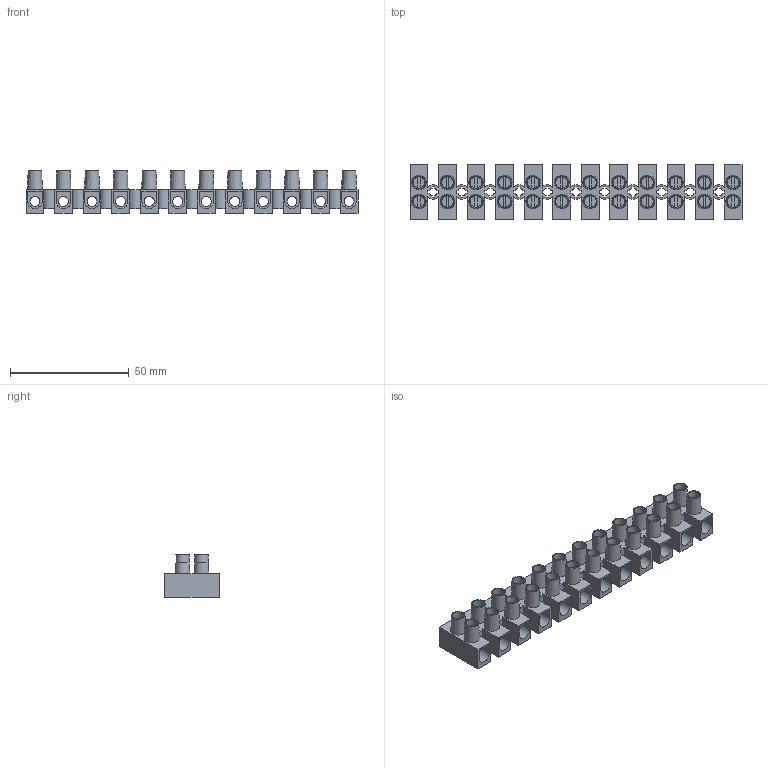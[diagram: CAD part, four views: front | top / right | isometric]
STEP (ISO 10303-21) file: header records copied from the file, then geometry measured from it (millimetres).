
FILE_DESCRIPTION(/* description */ ('Unknown'),/* implementation_level */ '2;1');
FILE_NAME(/* name */ 'MT 1110 PH',/* time_stamp */ '2021-10-08T10:07:23+02:00',/* author */ ('Unknown'),/* organization */ ('Unknown'),/* preprocessor_version */ 'ST-DEVELOPER v16.7',/* originating_system */ 'Solid Edge',/* authorisation */ 'Unknown');
FILE_SCHEMA (('AUTOMOTIVE_DESIGN {1 0 10303 214 3 1 1}'));
Length unit declared in the file: millimetre
Products named in the file (1): MT 1110 PH
Bounding box: 139.5 x 23 x 18 mm (x, y, z)
Volume: 16629.9 mm3; surface area: 23791.9 mm2
Topology: 1 solids, 1 shells, 643 faces, 1716 edges, 1148 vertices
Faces by surface type: plane 493, cylinder 126, cone 24
Full cylindrical faces by diameter (mm): 4.2 x12, 4.9 x24
Entity records: 19476 total; most frequent: CARTESIAN_POINT 3376, DIRECTION 3280, ORIENTED_EDGE 3240, EDGE_CURVE 1620, LINE 1248, VECTOR 1248, VERTEX_POINT 1112, AXIS2_PLACEMENT_3D 1016
